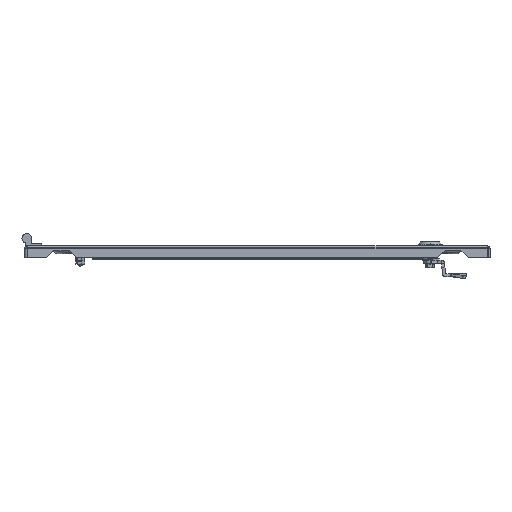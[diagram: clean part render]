
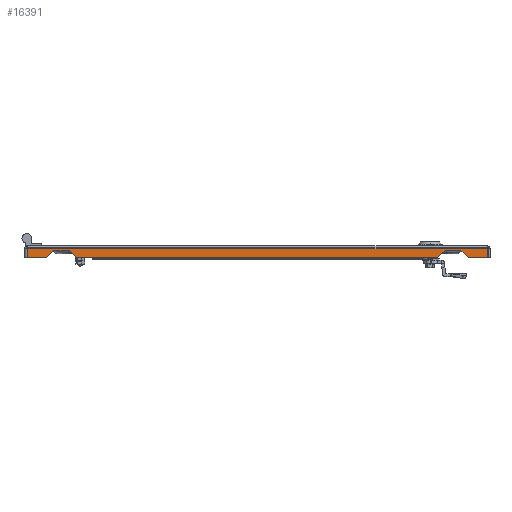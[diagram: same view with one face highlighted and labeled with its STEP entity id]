
A CAD part, front view. The second image highlights one B-rep face of the part: STEP entity #16391.
In plain terms, the highlighted planar face has unit normal (0, -1, 0).
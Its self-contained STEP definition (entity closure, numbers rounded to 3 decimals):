
#2189 = AXIS2_PLACEMENT_3D ( 'NONE', #5247, #5252, #5253 ) ;
#3858 = FACE_OUTER_BOUND ( 'NONE', #20523, .T. ) ;
#5246 = PLANE ( 'NONE',  #2189 ) ;
#5247 = CARTESIAN_POINT ( 'NONE',  ( 292.5, -397., -15. ) ) ;
#5252 = DIRECTION ( 'NONE',  ( 0., -1., 0. ) ) ;
#5253 = DIRECTION ( 'NONE',  ( 1., 0., 0. ) ) ;
#9338 = LINE ( 'NONE', #11746, #9340 ) ;
#9340 = VECTOR ( 'NONE', #11742, 1000. ) ;
#9348 = LINE ( 'NONE', #11760, #9354 ) ;
#9354 = VECTOR ( 'NONE', #11769, 1000. ) ;
#9524 = LINE ( 'NONE', #11982, #9531 ) ;
#9531 = VECTOR ( 'NONE', #11987, 1000. ) ;
#9576 = LINE ( 'NONE', #12042, #9579 ) ;
#9578 = LINE ( 'NONE', #12044, #9581 ) ;
#9579 = VECTOR ( 'NONE', #12043, 1000. ) ;
#9580 = LINE ( 'NONE', #12046, #9583 ) ;
#9581 = VECTOR ( 'NONE', #12045, 1000. ) ;
#9582 = LINE ( 'NONE', #12048, #9585 ) ;
#9583 = VECTOR ( 'NONE', #12047, 1000. ) ;
#9584 = LINE ( 'NONE', #12050, #9587 ) ;
#9585 = VECTOR ( 'NONE', #12049, 1000. ) ;
#9586 = LINE ( 'NONE', #12052, #9589 ) ;
#9587 = VECTOR ( 'NONE', #12051, 1000. ) ;
#9588 = LINE ( 'NONE', #12054, #9591 ) ;
#9589 = VECTOR ( 'NONE', #12053, 1000. ) ;
#9590 = LINE ( 'NONE', #12056, #9593 ) ;
#9591 = VECTOR ( 'NONE', #12055, 1000. ) ;
#9592 = LINE ( 'NONE', #12058, #9595 ) ;
#9593 = VECTOR ( 'NONE', #12057, 1000. ) ;
#9595 = VECTOR ( 'NONE', #12059, 1000. ) ;
#11742 = DIRECTION ( 'NONE',  ( 1., 0., 0. ) ) ;
#11746 = CARTESIAN_POINT ( 'NONE',  ( 292.5, -397., -15. ) ) ;
#11760 = CARTESIAN_POINT ( 'NONE',  ( 292.5, -397., -15. ) ) ;
#11769 = DIRECTION ( 'NONE',  ( 1., 0., 0. ) ) ;
#11982 = CARTESIAN_POINT ( 'NONE',  ( 292.5, -397., -15. ) ) ;
#11987 = DIRECTION ( 'NONE',  ( 1., 0., 0. ) ) ;
#12042 = CARTESIAN_POINT ( 'NONE',  ( 265., -397., -15. ) ) ;
#12043 = DIRECTION ( 'NONE',  ( 0.707, 0., -0.707 ) ) ;
#12044 = CARTESIAN_POINT ( 'NONE',  ( 289., -397., -15. ) ) ;
#12045 = DIRECTION ( 'NONE',  ( 0., 0., 1. ) ) ;
#12046 = CARTESIAN_POINT ( 'NONE',  ( -292.5, -397., -3.5 ) ) ;
#12047 = DIRECTION ( 'NONE',  ( -1., 0., 0. ) ) ;
#12048 = CARTESIAN_POINT ( 'NONE',  ( -289., -397., -15. ) ) ;
#12049 = DIRECTION ( 'NONE',  ( 0., 0., -1. ) ) ;
#12050 = CARTESIAN_POINT ( 'NONE',  ( -265., -397., -15. ) ) ;
#12051 = DIRECTION ( 'NONE',  ( 0.707, 0., 0.707 ) ) ;
#12052 = CARTESIAN_POINT ( 'NONE',  ( -256., -397., -6. ) ) ;
#12053 = DIRECTION ( 'NONE',  ( 1., 0., 0. ) ) ;
#12054 = CARTESIAN_POINT ( 'NONE',  ( -236., -397., -6. ) ) ;
#12055 = DIRECTION ( 'NONE',  ( 0.707, 0., -0.707 ) ) ;
#12056 = CARTESIAN_POINT ( 'NONE',  ( 236., -397., -6. ) ) ;
#12057 = DIRECTION ( 'NONE',  ( 0.707, 0., 0.707 ) ) ;
#12058 = CARTESIAN_POINT ( 'NONE',  ( 256., -397., -6. ) ) ;
#12059 = DIRECTION ( 'NONE',  ( 1., 0., 0. ) ) ;
#14861 = CARTESIAN_POINT ( 'NONE',  ( 265., -397., -15. ) ) ;
#14864 = CARTESIAN_POINT ( 'NONE',  ( 289., -397., -15. ) ) ;
#14865 = CARTESIAN_POINT ( 'NONE',  ( -227., -397., -15. ) ) ;
#14868 = CARTESIAN_POINT ( 'NONE',  ( 227., -397., -15. ) ) ;
#14940 = CARTESIAN_POINT ( 'NONE',  ( -265., -397., -15. ) ) ;
#14946 = CARTESIAN_POINT ( 'NONE',  ( -289., -397., -15. ) ) ;
#14964 = CARTESIAN_POINT ( 'NONE',  ( -256., -397., -6. ) ) ;
#14965 = CARTESIAN_POINT ( 'NONE',  ( 236., -397., -6. ) ) ;
#14967 = CARTESIAN_POINT ( 'NONE',  ( 256., -397., -6. ) ) ;
#14969 = CARTESIAN_POINT ( 'NONE',  ( 289., -397., -3.5 ) ) ;
#14971 = CARTESIAN_POINT ( 'NONE',  ( -289., -397., -3.5 ) ) ;
#14973 = CARTESIAN_POINT ( 'NONE',  ( -236., -397., -6. ) ) ;
#16391 = ADVANCED_FACE ( 'NONE', ( #3858 ), #5246, .T. ) ;
#18864 = EDGE_CURVE ( 'NONE', #20307, #20310, #9338, .T. ) ;
#18872 = EDGE_CURVE ( 'NONE', #20311, #20314, #9348, .T. ) ;
#18971 = EDGE_CURVE ( 'NONE', #20392, #20386, #9524, .T. ) ;
#18997 = EDGE_CURVE ( 'NONE', #20413, #20307, #9576, .T. ) ;
#18998 = EDGE_CURVE ( 'NONE', #20310, #20415, #9578, .T. ) ;
#18999 = EDGE_CURVE ( 'NONE', #20415, #20417, #9580, .T. ) ;
#19000 = EDGE_CURVE ( 'NONE', #20417, #20392, #9582, .T. ) ;
#19001 = EDGE_CURVE ( 'NONE', #20386, #20410, #9584, .T. ) ;
#19002 = EDGE_CURVE ( 'NONE', #20410, #20419, #9586, .T. ) ;
#19003 = EDGE_CURVE ( 'NONE', #20419, #20311, #9588, .T. ) ;
#19004 = EDGE_CURVE ( 'NONE', #20314, #20411, #9590, .T. ) ;
#19005 = EDGE_CURVE ( 'NONE', #20411, #20413, #9592, .T. ) ;
#20307 = VERTEX_POINT ( 'NONE', #14861 ) ;
#20310 = VERTEX_POINT ( 'NONE', #14864 ) ;
#20311 = VERTEX_POINT ( 'NONE', #14865 ) ;
#20314 = VERTEX_POINT ( 'NONE', #14868 ) ;
#20386 = VERTEX_POINT ( 'NONE', #14940 ) ;
#20392 = VERTEX_POINT ( 'NONE', #14946 ) ;
#20410 = VERTEX_POINT ( 'NONE', #14964 ) ;
#20411 = VERTEX_POINT ( 'NONE', #14965 ) ;
#20413 = VERTEX_POINT ( 'NONE', #14967 ) ;
#20415 = VERTEX_POINT ( 'NONE', #14969 ) ;
#20417 = VERTEX_POINT ( 'NONE', #14971 ) ;
#20419 = VERTEX_POINT ( 'NONE', #14973 ) ;
#20523 = EDGE_LOOP ( 'NONE', ( #21332, #21333, #21334, #21335, #21336, #21337, #21338, #21339, #21340, #21341, #21342, #21343 ) ) ;
#21332 = ORIENTED_EDGE ( 'NONE', *, *, #18997, .T. ) ;
#21333 = ORIENTED_EDGE ( 'NONE', *, *, #18864, .T. ) ;
#21334 = ORIENTED_EDGE ( 'NONE', *, *, #18998, .T. ) ;
#21335 = ORIENTED_EDGE ( 'NONE', *, *, #18999, .T. ) ;
#21336 = ORIENTED_EDGE ( 'NONE', *, *, #19000, .T. ) ;
#21337 = ORIENTED_EDGE ( 'NONE', *, *, #18971, .T. ) ;
#21338 = ORIENTED_EDGE ( 'NONE', *, *, #19001, .T. ) ;
#21339 = ORIENTED_EDGE ( 'NONE', *, *, #19002, .T. ) ;
#21340 = ORIENTED_EDGE ( 'NONE', *, *, #19003, .T. ) ;
#21341 = ORIENTED_EDGE ( 'NONE', *, *, #18872, .T. ) ;
#21342 = ORIENTED_EDGE ( 'NONE', *, *, #19004, .T. ) ;
#21343 = ORIENTED_EDGE ( 'NONE', *, *, #19005, .T. ) ;
